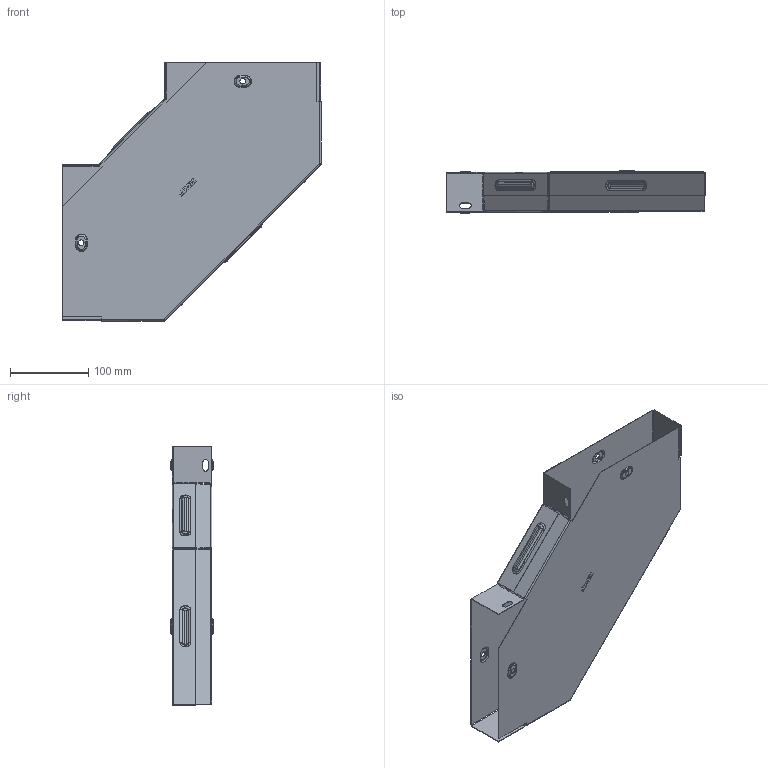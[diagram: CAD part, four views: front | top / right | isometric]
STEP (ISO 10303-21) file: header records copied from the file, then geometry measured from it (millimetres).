
FILE_DESCRIPTION (( 'STEP AP214' ), '1' );
FILE_NAME ('g9050200_捘.STEP', '2019-06-10T09:48:35', ( '砐錪賧瘔蠈錪 Windows' ), ( '' ), 'SwSTEP 2.0', 'SolidWorks 2018', '' );
FILE_SCHEMA (( 'AUTOMOTIVE_DESIGN' ));
Length unit declared in the file: millimetre
Products named in the file (1): g9050200_捘
Bounding box: 330.8 x 53.8 x 330.8 mm (x, y, z)
Volume: 159124.4 mm3; surface area: 400887.3 mm2
Topology: 2 solids, 2 shells, 505 faces, 1359 edges, 874 vertices
Faces by surface type: plane 288, cylinder 127, torus 64, bspline 26
Entity records: 17072 total; most frequent: CARTESIAN_POINT 4215, ORIENTED_EDGE 2718, DIRECTION 2589, EDGE_CURVE 1359, LINE 961, VECTOR 961, VERTEX_POINT 874, AXIS2_PLACEMENT_3D 814
